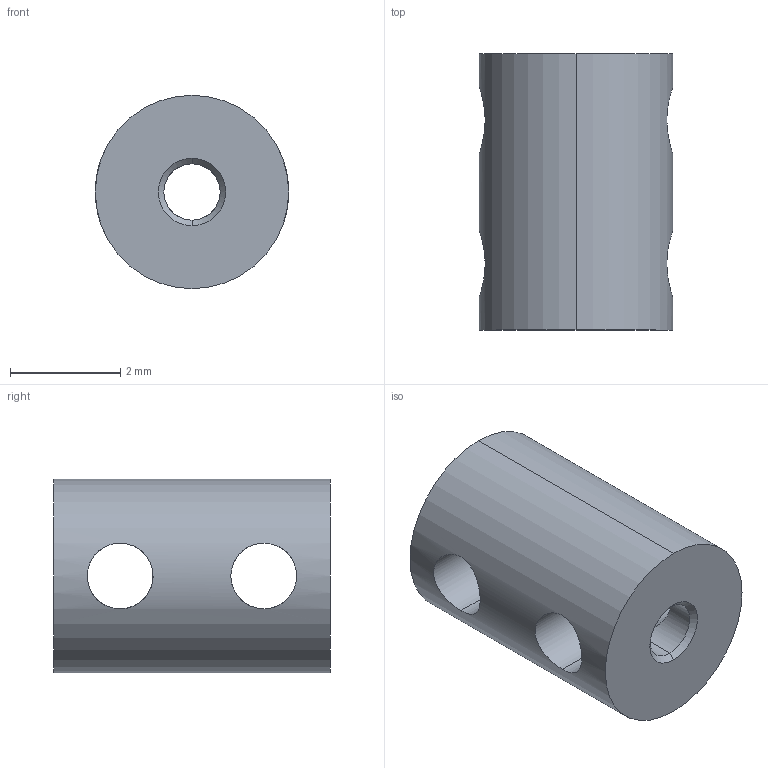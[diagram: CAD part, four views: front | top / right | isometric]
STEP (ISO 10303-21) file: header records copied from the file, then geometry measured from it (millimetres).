
FILE_DESCRIPTION (( 'STEP AP214' ), '1' );
FILE_NAME ('TRL-0027-A.STEP', '2021-06-29T17:45:31', ( '' ), ( '' ), 'SwSTEP 2.0', 'SolidWorks 2016', '' );
FILE_SCHEMA (( 'AUTOMOTIVE_DESIGN' ));
Length unit declared in the file: millimetre
Products named in the file (1): TRL-0027-A
Bounding box: 3.5 x 5 x 3.5 mm (x, y, z)
Volume: 38 mm3; surface area: 99.5 mm2
Topology: 1 solids, 1 shells, 18 faces, 44 edges, 28 vertices
Faces by surface type: cylinder 12, cone 4, plane 2
Entity records: 818 total; most frequent: CARTESIAN_POINT 315, ORIENTED_EDGE 88, DIRECTION 78, EDGE_CURVE 44, AXIS2_PLACEMENT_3D 31, EDGE_LOOP 28, VERTEX_POINT 28, ADVANCED_FACE 18
